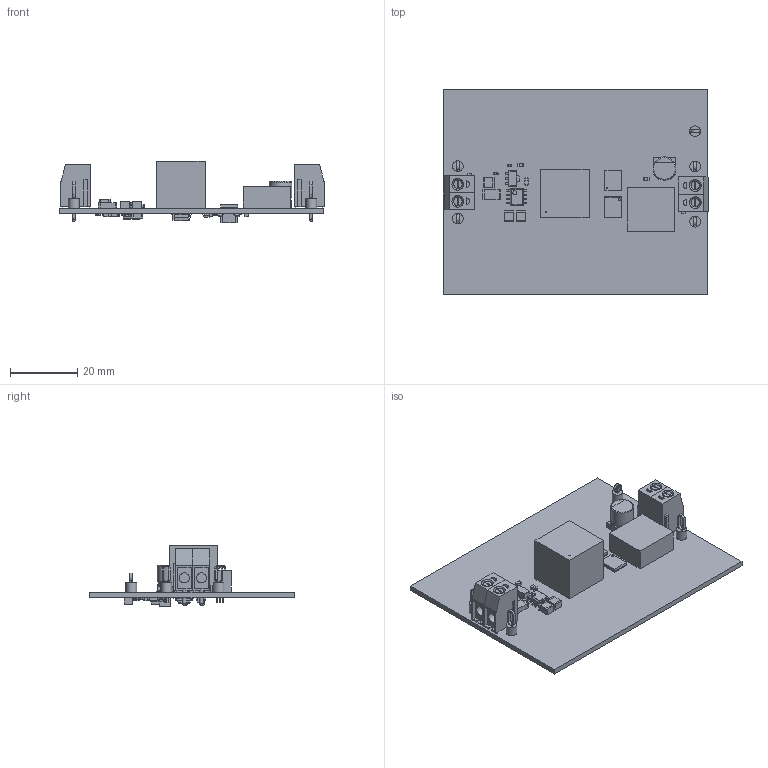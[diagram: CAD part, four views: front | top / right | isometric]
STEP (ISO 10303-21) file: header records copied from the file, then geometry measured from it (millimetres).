
FILE_DESCRIPTION(('Open CASCADE Model'),'2;1');
FILE_NAME('Open CASCADE Shape Model','2017-05-22T10:21:04',('Author'),( 'Open CASCADE'),'Open CASCADE STEP processor 6.8','Open CASCADE 6.8' ,'Unknown');
FILE_SCHEMA(('AUTOMOTIVE_DESIGN { 1 0 10303 214 1 1 1 1 }'));
Length unit declared in the file: millimetre
Products named in the file (157): PCB; Board; Vout; Keystone_5010; Keystone_multipurpose_wire; Keystone5005_red; U2; SOP-4; U1; 1581075944; Extruded; 1581074992; TP1; Keystone_5008; KeystoneCompact_wire; Keystone5008_orange; T1; 1581074312; 1581073904; R20; 1581074448; 1581074584; R19; R18; 1581074040; 1581074176; R17; R16; R15; R14; R13; R12; R11; R10; R9; R8; R7; R6; R5; 1581073224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
Assembly tree (269 placements, depth 6):
  PCB
    Board
    Vout
      Keystone_5010
        Keystone_multipurpose_wire
        Keystone5005_red
    U2
      SOP-4
    U1
      1581075944
        Extruded
      1581074992
        Extruded
    TP1
      Keystone_5008
        KeystoneCompact_wire
        Keystone5008_orange
    T1
      1581074312
        Extruded
      1581073904
        Extruded
    R20
      1581074448  x2
        Extruded
      1581074584
        Extruded
    R19
      1581074448  x2
        Extruded
      1581074584
        Extruded
    R18
      1581074040  x2
        Extruded
      1581074176
        Extruded
    R17
      1581074040  x2
        Extruded
      1581074176
        Extruded
    R16
      1581074448  x2
        Extruded
      1581074584
        Extruded
    R15
      1581074448  x2
        Extruded
      1581074584
        Extruded
    R14
      1581074040  x2
        Extruded
      1581074176
        Extruded
    R13
      1581074040  x2
        Extruded
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Bounding box: 78.93 x 60.96 x 18.45 mm (x, y, z)
Volume: 14398.3 mm3; surface area: 16755.7 mm2
Topology: 173 solids, 177 shells, 2123 faces, 4895 edges, 3148 vertices
Faces by surface type: plane 1627, cylinder 418, sphere 46, torus 18, bspline 10, cone 4
Full cylindrical faces by diameter (mm): 0.4 x16, 0.469 x2, 1 x4, 1.25 x4, 1.5 x4, 1.6 x5, 2.5 x8, 3 x4, 3.2 x5, 6.12 x1, 6.8 x2
Entity records: 94360 total; most frequent: CARTESIAN_POINT 43394, DIRECTION 8321, LINE 4773, VECTOR 4773, ORIENTED_EDGE 4664, PCURVE 4664, DEFINITIONAL_REPRESENTATION 4664, EDGE_CURVE 2332
